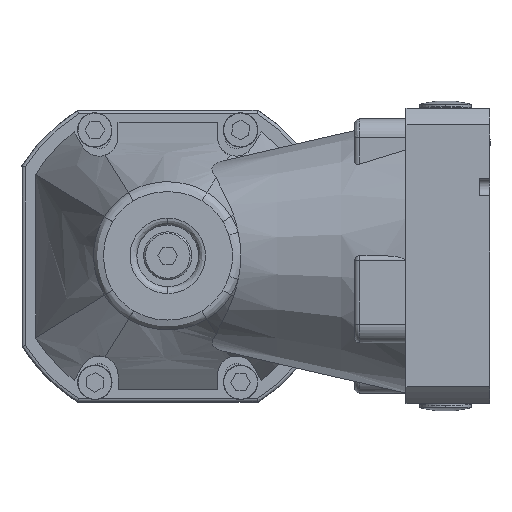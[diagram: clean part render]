
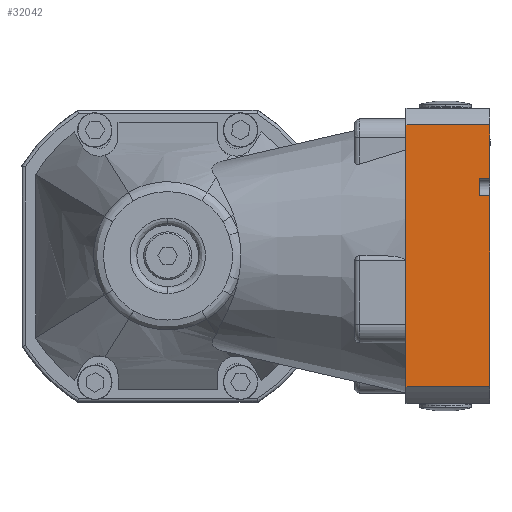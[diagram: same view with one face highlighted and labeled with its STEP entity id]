
A CAD part, top view. The second image highlights one B-rep face of the part: STEP entity #32042.
In plain terms, the highlighted planar face has unit normal (0, 0, 1).
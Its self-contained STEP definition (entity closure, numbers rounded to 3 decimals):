
#1366 = VERTEX_POINT ( 'NONE', #26952 ) ;
#2271 = EDGE_CURVE ( 'NONE', #16208, #43344, #38035, .T. ) ;
#2396 = EDGE_CURVE ( 'NONE', #43344, #51299, #69331, .T. ) ;
#2483 = CARTESIAN_POINT ( 'NONE',  ( 91., 22.5, 127. ) ) ;
#6678 = ORIENTED_EDGE ( 'NONE', *, *, #69068, .F. ) ;
#7322 = DIRECTION ( 'NONE',  ( 1., 0., 0. ) ) ;
#11560 = ORIENTED_EDGE ( 'NONE', *, *, #2271, .F. ) ;
#12101 = VECTOR ( 'NONE', #18589, 1000. ) ;
#12311 = PLANE ( 'NONE',  #12972 ) ;
#12972 = AXIS2_PLACEMENT_3D ( 'NONE', #49454, #66343, #33156 ) ;
#13619 = CARTESIAN_POINT ( 'NONE',  ( 91., -43., 127. ) ) ;
#15111 = DIRECTION ( 'NONE',  ( 0., -1., 0. ) ) ;
#16208 = VERTEX_POINT ( 'NONE', #59022 ) ;
#17222 = LINE ( 'NONE', #54336, #24858 ) ;
#18589 = DIRECTION ( 'NONE',  ( 0., -1., 0. ) ) ;
#19136 = EDGE_LOOP ( 'NONE', ( #6678, #29205, #49559, #38553, #20664, #11560, #65878, #35321 ) ) ;
#19919 = VECTOR ( 'NONE', #59535, 1000. ) ;
#20122 = LINE ( 'NONE', #63509, #49837 ) ;
#20664 = ORIENTED_EDGE ( 'NONE', *, *, #2396, .F. ) ;
#20974 = CARTESIAN_POINT ( 'NONE',  ( 54.5, 22.5, 127. ) ) ;
#21383 = CARTESIAN_POINT ( 'NONE',  ( 91., 17.5, 127. ) ) ;
#24858 = VECTOR ( 'NONE', #7322, 1000. ) ;
#26610 = VECTOR ( 'NONE', #54492, 1000. ) ;
#26839 = VECTOR ( 'NONE', #68205, 1000. ) ;
#26952 = CARTESIAN_POINT ( 'NONE',  ( 69.5, -38.174, 127. ) ) ;
#27525 = VERTEX_POINT ( 'NONE', #34613 ) ;
#29205 = ORIENTED_EDGE ( 'NONE', *, *, #58486, .F. ) ;
#32042 = ADVANCED_FACE ( 'NONE', ( #57306 ), #12311, .F. ) ;
#33156 = DIRECTION ( 'NONE',  ( 0., 1., 0. ) ) ;
#34613 = CARTESIAN_POINT ( 'NONE',  ( 94., 17.5, 127. ) ) ;
#35131 = EDGE_CURVE ( 'NONE', #51299, #45564, #51801, .T. ) ;
#35321 = ORIENTED_EDGE ( 'NONE', *, *, #67417, .F. ) ;
#37047 = CARTESIAN_POINT ( 'NONE',  ( 94.001, 38.174, 127. ) ) ;
#38035 = LINE ( 'NONE', #69107, #19919 ) ;
#38553 = ORIENTED_EDGE ( 'NONE', *, *, #35131, .F. ) ;
#41427 = LINE ( 'NONE', #62538, #26839 ) ;
#42618 = CARTESIAN_POINT ( 'NONE',  ( 94., 22.5, 127. ) ) ;
#43344 = VERTEX_POINT ( 'NONE', #42618 ) ;
#43428 = DIRECTION ( 'NONE',  ( 1., 0., 0. ) ) ;
#45564 = VERTEX_POINT ( 'NONE', #21383 ) ;
#47249 = CARTESIAN_POINT ( 'NONE',  ( 69.5, 38.174, 127. ) ) ;
#47951 = VECTOR ( 'NONE', #66625, 1000. ) ;
#48905 = VERTEX_POINT ( 'NONE', #57991 ) ;
#49454 = CARTESIAN_POINT ( 'NONE',  ( 54.5, -43., 127. ) ) ;
#49559 = ORIENTED_EDGE ( 'NONE', *, *, #55303, .F. ) ;
#49837 = VECTOR ( 'NONE', #15111, 1000. ) ;
#51299 = VERTEX_POINT ( 'NONE', #2483 ) ;
#51801 = LINE ( 'NONE', #13619, #12101 ) ;
#53308 = LINE ( 'NONE', #37047, #58643 ) ;
#54336 = CARTESIAN_POINT ( 'NONE',  ( 54.5, 17.5, 127. ) ) ;
#54492 = DIRECTION ( 'NONE',  ( -1., 0., 0. ) ) ;
#55214 = EDGE_CURVE ( 'NONE', #58807, #16208, #53308, .T. ) ;
#55303 = EDGE_CURVE ( 'NONE', #45564, #27525, #17222, .T. ) ;
#56053 = CARTESIAN_POINT ( 'NONE',  ( 69.5, 0., 127. ) ) ;
#57306 = FACE_OUTER_BOUND ( 'NONE', #19136, .T. ) ;
#57991 = CARTESIAN_POINT ( 'NONE',  ( 94., -38.174, 127. ) ) ;
#58486 = EDGE_CURVE ( 'NONE', #27525, #48905, #20122, .T. ) ;
#58643 = VECTOR ( 'NONE', #43428, 1000. ) ;
#58807 = VERTEX_POINT ( 'NONE', #47249 ) ;
#59022 = CARTESIAN_POINT ( 'NONE',  ( 94., 38.174, 127. ) ) ;
#59535 = DIRECTION ( 'NONE',  ( 0., -1., 0. ) ) ;
#62538 = CARTESIAN_POINT ( 'NONE',  ( 54.5, -38.174, 127. ) ) ;
#63509 = CARTESIAN_POINT ( 'NONE',  ( 94., -43., 127. ) ) ;
#65878 = ORIENTED_EDGE ( 'NONE', *, *, #55214, .F. ) ;
#66343 = DIRECTION ( 'NONE',  ( 0., 0., -1. ) ) ;
#66625 = DIRECTION ( 'NONE',  ( 0., 1., 0. ) ) ;
#66971 = LINE ( 'NONE', #56053, #47951 ) ;
#67417 = EDGE_CURVE ( 'NONE', #1366, #58807, #66971, .T. ) ;
#68205 = DIRECTION ( 'NONE',  ( -1., 0., 0. ) ) ;
#69068 = EDGE_CURVE ( 'NONE', #48905, #1366, #41427, .T. ) ;
#69107 = CARTESIAN_POINT ( 'NONE',  ( 94., -43., 127. ) ) ;
#69331 = LINE ( 'NONE', #20974, #26610 ) ;
